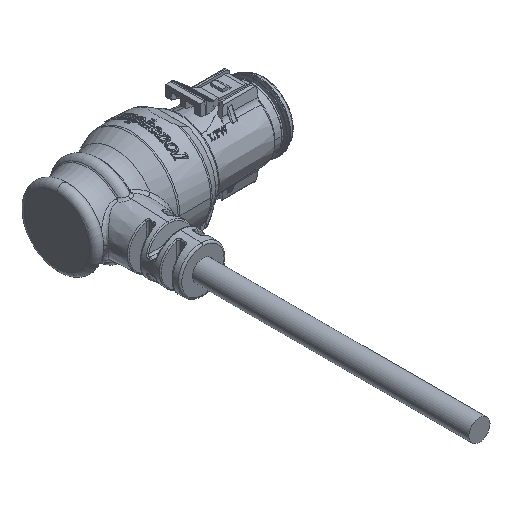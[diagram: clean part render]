
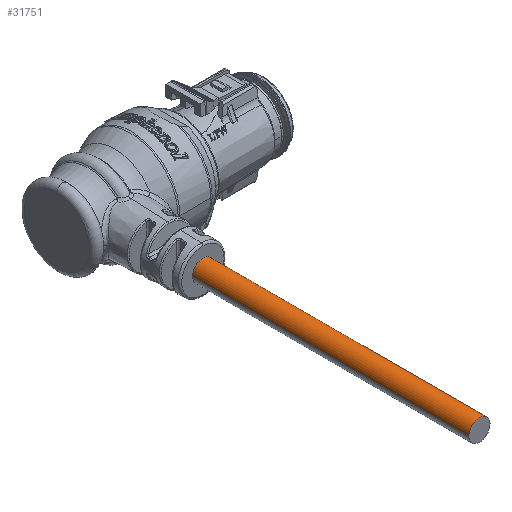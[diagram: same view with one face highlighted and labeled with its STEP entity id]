
A CAD part, isometric view. The second image highlights one B-rep face of the part: STEP entity #31751.
In plain terms, the highlighted cylindrical face has radius 2.75 mm (diameter 5.5 mm), a partial arc.
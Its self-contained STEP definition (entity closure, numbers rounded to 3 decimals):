
#4610=CARTESIAN_POINT('',(-12.7,-28.,0.));
#4611=DIRECTION('',(0.,1.,0.));
#4612=DIRECTION('',(-1.,0.,0.));
#4613=AXIS2_PLACEMENT_3D('',#4610,#4611,#4612);
#4615=DIRECTION('',(0.,-1.,0.));
#4616=VECTOR('',#4615,72.);
#4617=CARTESIAN_POINT('',(-9.95,-28.,0.));
#4618=LINE('',#4617,#4616);
#4619=DIRECTION('',(0.,1.,0.));
#4620=VECTOR('',#4619,72.);
#4621=CARTESIAN_POINT('',(-15.45,-100.,0.));
#4622=LINE('',#4621,#4620);
#4628=CARTESIAN_POINT('',(-12.7,-100.,0.));
#4629=DIRECTION('',(0.,1.,0.));
#4630=DIRECTION('',(-1.,0.,0.));
#4631=AXIS2_PLACEMENT_3D('',#4628,#4629,#4630);
#22120=CARTESIAN_POINT('',(-9.95,-100.,0.));
#22121=CARTESIAN_POINT('',(-15.45,-100.,0.));
#22122=VERTEX_POINT('',#22120);
#22123=VERTEX_POINT('',#22121);
#23105=CARTESIAN_POINT('',(-9.95,-28.,0.));
#23106=CARTESIAN_POINT('',(-15.45,-28.,0.));
#23107=VERTEX_POINT('',#23105);
#23108=VERTEX_POINT('',#23106);
#31739=CARTESIAN_POINT('',(-12.7,-102.,0.));
#31740=DIRECTION('',(0.,1.,0.));
#31741=DIRECTION('',(1.,0.,0.));
#31742=AXIS2_PLACEMENT_3D('',#31739,#31740,#31741);
#31743=CYLINDRICAL_SURFACE('',#31742,2.75);
#31744=ORIENTED_EDGE('',*,*,#31719,.T.);
#31745=ORIENTED_EDGE('',*,*,#31734,.T.);
#31747=ORIENTED_EDGE('',*,*,#31746,.F.);
#31748=ORIENTED_EDGE('',*,*,#31730,.T.);
#31749=EDGE_LOOP('',(#31744,#31745,#31747,#31748));
#31750=FACE_OUTER_BOUND('',#31749,.F.);
#31751=ADVANCED_FACE('',(#31750),#31743,.T.);
#4614=CIRCLE('',#4613,2.75);
#4632=CIRCLE('',#4631,2.75);
#31719=EDGE_CURVE('',#23108,#23107,#4614,.T.);
#31730=EDGE_CURVE('',#22123,#23108,#4622,.T.);
#31734=EDGE_CURVE('',#23107,#22122,#4618,.T.);
#31746=EDGE_CURVE('',#22123,#22122,#4632,.T.);
